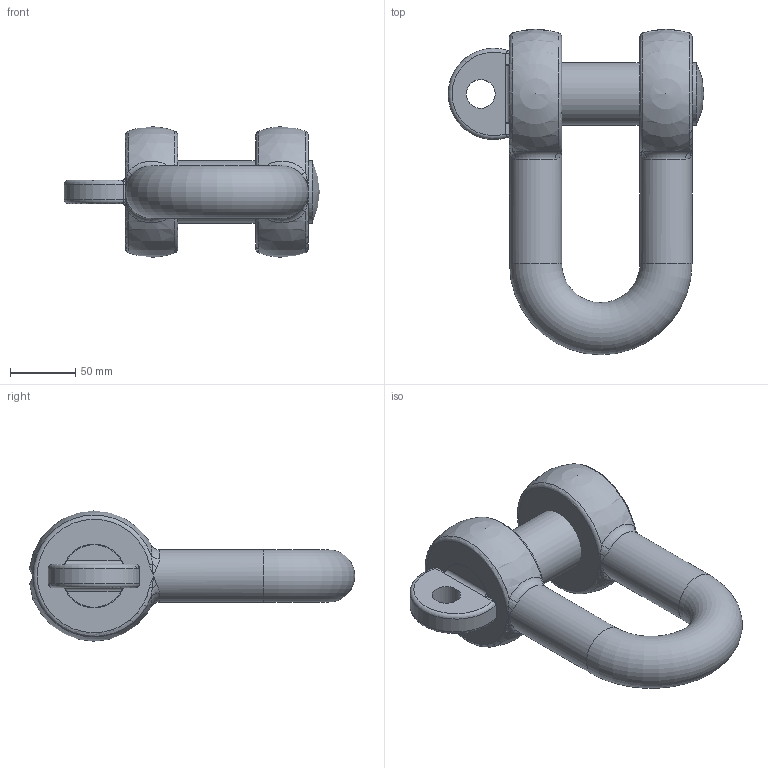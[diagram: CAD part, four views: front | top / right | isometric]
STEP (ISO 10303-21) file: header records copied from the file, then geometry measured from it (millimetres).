
FILE_DESCRIPTION(/* description */ (''),/* implementation_level */ '2;1');
FILE_NAME(/* name */ 'C:\Users\D\Documents\Inventor\HP\吊具\シャックル\SC_2\sc_40.stp',/* time_stamp */ '2024-11-14T11:46:21+09:00',/* author */ ('D'),/* organization */ (''),/* preprocessor_version */ 'ST-DEVELOPER v18',/* originating_system */ 'Autodesk Inventor 2020',/* authorisation */ '');
FILE_SCHEMA (('AUTOMOTIVE_DESIGN { 1 0 10303 214 3 1 1 }'));
Length unit declared in the file: millimetre
Products named in the file (3): sc_40; sb_6; bc-sc_pin_6
Assembly tree (2 placements, depth 2):
  sc_40
    sb_6
    bc-sc_pin_6
Bounding box: 196 x 249.64 x 100 mm (x, y, z)
Volume: 1172168.5 mm3; surface area: 126596.3 mm2
Topology: 2 solids, 2 shells, 67 faces, 180 edges, 93 vertices
Faces by surface type: bspline 28, cylinder 15, torus 11, plane 10, sphere 3
Full cylindrical faces by diameter (mm): 22 x1, 40 x2, 42.587 x1, 48 x1, 49 x1
Entity records: 3071 total; most frequent: CARTESIAN_POINT 1567, ORIENTED_EDGE 312, DIRECTION 266, EDGE_CURVE 156, AXIS2_PLACEMENT_3D 122, VERTEX_POINT 93, CIRCLE 78, EDGE_LOOP 73
